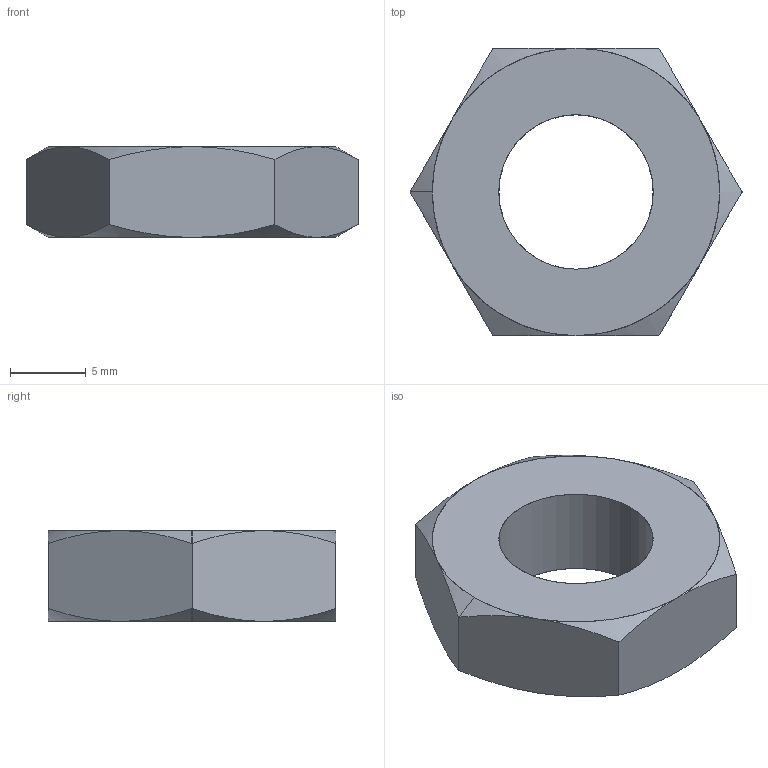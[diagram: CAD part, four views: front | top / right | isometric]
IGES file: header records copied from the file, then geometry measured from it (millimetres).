
Start section: SolidWorks IGES file using analytic representation for surfaces
Global section: file name: C:\Documents and Settings\IANO\Desktop\Temp File\32700_v2_20160202_IGES\32700.W0116.igs; native system: SolidWorks 2009; preprocessor: SolidWorks 2009; author: IANO; date: 160211.130006; units: millimetre
Bounding box: 21.94 x 19 x 6 mm (x, y, z)
Surface area: 1019.7 mm2 (no closed solid volume)
Topology: 0 solids, 0 shells, 24 faces, 390 edges, 390 vertices
Faces by surface type: revolution 16, bspline 8
